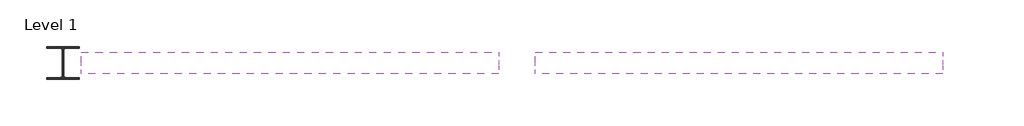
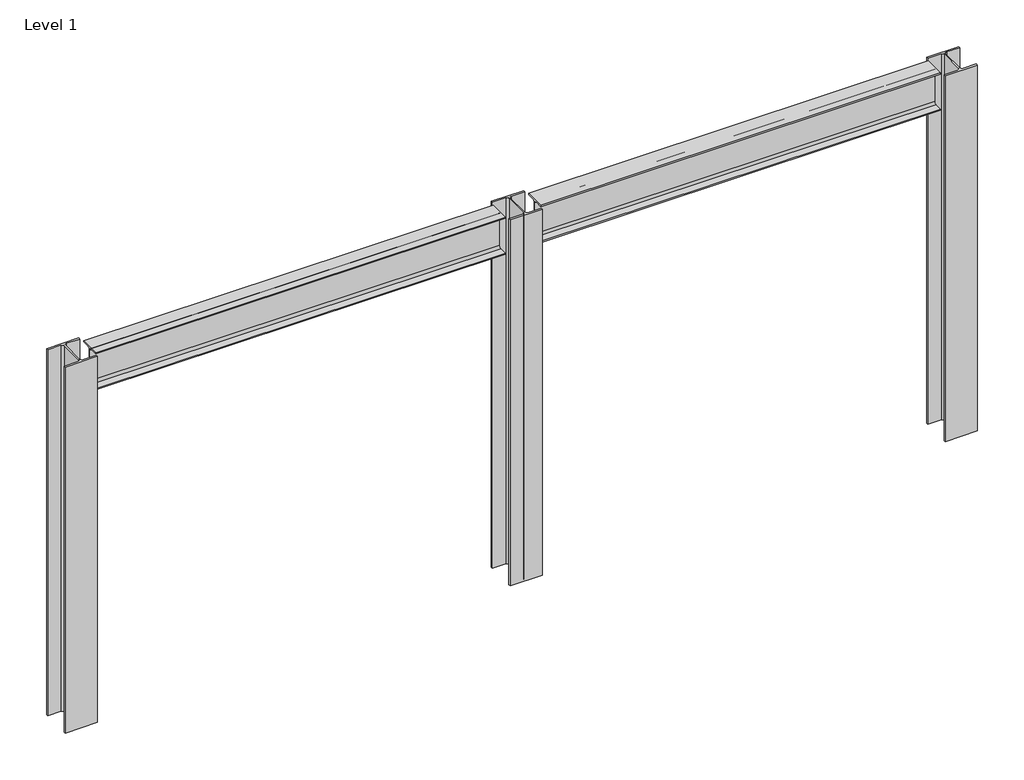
# One storey: 3 columns, 2 beams.
"""IFC4 building model written with IfcOpenShell, lengths in millimetres."""

from ifc_helpers import new_model, si_unit, origin, place, context, project, spatial, transform, mapped, element, save
from components import w_wide_flange_w12x26_715d0f22, w_wide_flange_w12x26_0bcb4ac5, w_wide_flange_column_w10x49_f24ffb9b

model = new_model("IFC4")

# Units and contexts
model_context = context("Model", 3, world=origin())
ifc_project = project(units=[si_unit("LENGTHUNIT", "METRE", prefix="MILLI")], contexts=[model_context])

# Site, building, storey
site = spatial("IfcSite", under=ifc_project)
building = spatial("IfcBuilding", under=site)
storey = spatial("IfcBuildingStorey", under=building, Name="Level 1", Elevation=0.0)

# Beams
placement = place(None, origin())
w_wide_flange_w12x26_shape = w_wide_flange_w12x26_715d0f22(model_context)
element("IfcBeam", 1, ObjectType="W-Wide Flange : W12X26", at=placement, inside=storey, context=model_context, shape_type="MappedRepresentation", body=[
    mapped(w_wide_flange_w12x26_shape, transform((-16592.3158378, 12339.6197055, 2892.821875), x_axis=(1.0, 0.0, 0.0), y_axis=(0.0, 1.0, 0.0), z_axis=(0.0, 0.0, 1.0))),
])
w_wide_flange_w12x26_2_shape = w_wide_flange_w12x26_0bcb4ac5(model_context)
element("IfcBeam", 2, ObjectType="W-Wide Flange : W12X26", at=placement, inside=storey, context=model_context, shape_type="MappedRepresentation", body=[
    mapped(w_wide_flange_w12x26_2_shape, transform((-13125.2158378, 12339.6197055, 2892.821875), x_axis=(1.0, 0.0, 0.0), y_axis=(0.0, 1.0, 0.0), z_axis=(0.0, 0.0, 1.0))),
])

# Columns
w_wide_flange_column_w10x49_shape = w_wide_flange_column_w10x49_f24ffb9b(model_context)
element("IfcColumn", 3, ObjectType="W-Wide Flange-Column : W10X49", at=placement, inside=storey, context=model_context, shape_type="MappedRepresentation", body=[
    mapped(w_wide_flange_column_w10x49_shape, transform((-14839.7158378, 12339.6197055, 0.0), x_axis=(1.0, 0.0, 0.0), y_axis=(0.0, 1.0, 0.0), z_axis=(0.0, 0.0, 1.0))),
])
element("IfcColumn", 4, ObjectType="W-Wide Flange-Column : W10X49", at=placement, inside=storey, context=model_context, shape_type="MappedRepresentation", body=[
    mapped(w_wide_flange_column_w10x49_shape, transform((-18344.9158378, 12339.6197055, 0.0), x_axis=(1.0, 0.0, 0.0), y_axis=(0.0, 1.0, 0.0), z_axis=(0.0, 0.0, 1.0))),
])
element("IfcColumn", 5, ObjectType="W-Wide Flange-Column : W10X49", at=placement, inside=storey, context=model_context, shape_type="MappedRepresentation", body=[
    mapped(w_wide_flange_column_w10x49_shape, transform((-11410.7158378, 12339.6197055, 0.0), x_axis=(1.0, 0.0, 0.0), y_axis=(0.0, 1.0, 0.0), z_axis=(0.0, 0.0, 1.0))),
])

save(model, "model.ifc")
